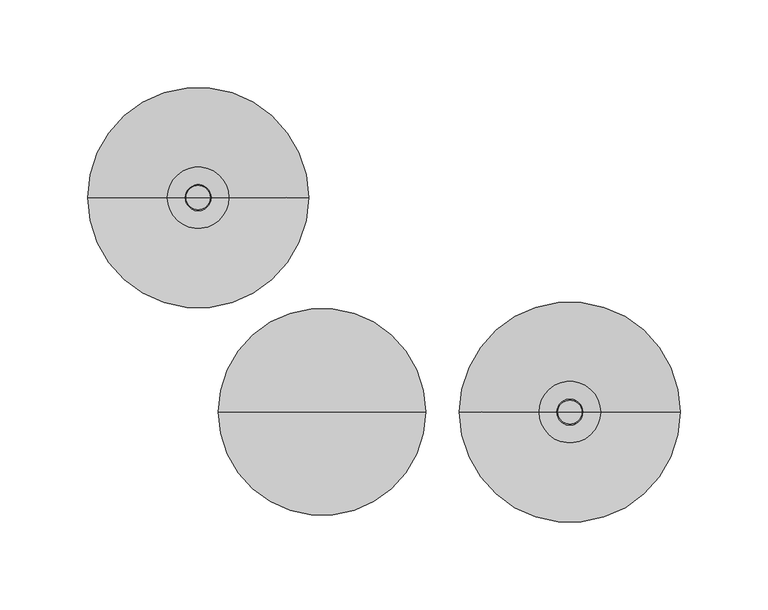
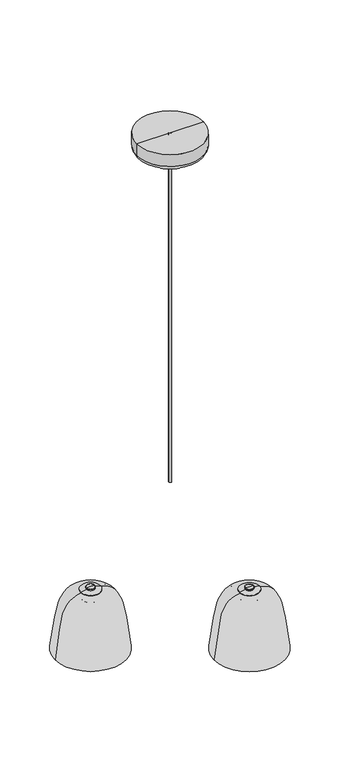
"""IFC4 building model written with IfcOpenShell, lengths in millimetres: light fixture geometry, Nuura - Asteea 3 - Ceiling Based : Nuura - Asteea 3 - Ceiling Based."""

from ifc_helpers import new_model, si_unit, point, frame, origin, origin_2d, place, context, project, spatial, polyline, circle_curve, ellipse_curve, trimmed, segment, composite_curve, outline, extrude, source, transform, mapped, element, save
from ifc_brep_helpers import plane_surface, cylinder_surface, revolved_surface, spline_curve, advanced_brep


def light_fixture_d8af2c10(model_context):
    return source(origin(), model_context, "Body", "SolidModel", [
        advanced_brep(
        [(147.921863, 0.0, 1537.8837022), (134.2810866, 0.0, 1537.8837022), (141.1014748, 0.0, 1537.8837022), (148.4506227, 0.0, 1537.3549425), (133.7523269, 0.0, 1537.3549425), (148.4506227, 0.0, 1535.2858596), (133.7523269, 0.0, 1535.2858596), (158.5840186, 0.0, 1533.3635281), (123.618931, 0.0, 1533.3635281), (158.313257, 0.0, 1532.3812096), (123.8896926, 0.0, 1532.3812096), (141.1014748, 0.0, 1532.3812096)],
        [
            (0, 1, circle_curve(frame((141.1014748, 0.0, 1537.8837022), z_axis=(0.0, 0.0, 1.0), x_axis=(-1.0, 0.0, 0.0)), 6.8203882)),
            (1, 2),
            (2, 0),
            (1, 0, circle_curve(frame((141.1014748, 0.0, 1537.8837022), z_axis=(0.0, 0.0, 1.0), x_axis=(-1.0, 0.0, 0.0)), 6.8203882)),
            (3, 4, circle_curve(frame((141.1014748, 0.0, 1537.3549425), z_axis=(0.0, 0.0, 1.0), x_axis=(-1.0, 0.0, 0.0)), 7.3491479)),
            (4, 1, circle_curve(frame((134.2810866, 0.0, 1537.3549425), z_axis=(0.0, 1.0, 0.0), x_axis=(1.0, 0.0, 0.0)), 0.5287596)),
            (0, 3, circle_curve(frame((147.921863, 0.0, 1537.3549425), z_axis=(0.0, 1.0, 0.0), x_axis=(-1.0, 0.0, 0.0)), 0.5287596)),
            (4, 3, circle_curve(frame((141.1014748, 0.0, 1537.3549425), z_axis=(0.0, 0.0, 1.0), x_axis=(-1.0, 0.0, 0.0)), 7.3491479)),
            (5, 6, circle_curve(frame((141.1014748, 0.0, 1535.2858596), z_axis=(0.0, 0.0, 1.0), x_axis=(-1.0, 0.0, 0.0)), 7.3491479)),
            (6, 4),
            (3, 5),
            (6, 5, circle_curve(frame((141.1014748, 0.0, 1535.2858596), z_axis=(0.0, 0.0, 1.0), x_axis=(-1.0, 0.0, 0.0)), 7.3491479)),
            (7, 8, circle_curve(frame((141.1014748, 0.0, 1533.3635281), z_axis=(0.0, 0.0, 1.0), x_axis=(-1.0, 0.0, 0.0)), 17.4825438)),
            (8, 6, circle_curve(frame((140.4555856, 0.0, 1472.2804356), z_axis=(0.0, 1.0, 0.0), x_axis=(1.0, 0.0, 0.0)), 63.3610063)),
            (5, 7, circle_curve(frame((141.747364, 0.0, 1472.2804356), z_axis=(0.0, 1.0, 0.0), x_axis=(-1.0, 0.0, 0.0)), 63.3610063)),
            (8, 7, circle_curve(frame((141.1014748, 0.0, 1533.3635281), z_axis=(0.0, 0.0, 1.0), x_axis=(-1.0, 0.0, 0.0)), 17.4825438)),
            (9, 10, circle_curve(frame((141.1014748, 0.0, 1532.3812096), z_axis=(0.0, 0.0, 1.0), x_axis=(-1.0, 0.0, 0.0)), 17.2117822)),
            (10, 8),
            (7, 9),
            (10, 9, circle_curve(frame((141.1014748, 0.0, 1532.3812096), z_axis=(0.0, 0.0, 1.0), x_axis=(-1.0, 0.0, 0.0)), 17.2117822)),
            (11, 10),
            (9, 11),
        ],
        [
            plane_surface(frame((141.1014748, 0.0, 1537.8837022), z_axis=(0.0, 0.0, 1.0), x_axis=(-1.0, 0.0, 0.0))),
            revolved_surface(trimmed(ellipse_curve(frame((134.2810866, 0.0, 1537.3549425), z_axis=(0.0, -1.0, 0.0), x_axis=(1.0, 0.0, 0.0)), 0.5287596, 0.5287596), [point((134.2810866, 0.0, 1537.8837022))], [point((133.7523269, 0.0, 1537.3549425))], True, "CARTESIAN"), (141.1014748, 0.0, 1753.1670854), (0.0, 0.0, -1.0)),
            cylinder_surface(frame((141.1014748, 0.0, 1753.1670854), z_axis=(0.0, 0.0, -1.0), x_axis=(-1.0, 0.0, 0.0)), 7.3491479),
            revolved_surface(trimmed(ellipse_curve(frame((140.4555856, 0.0, 1472.2804356), z_axis=(0.0, -1.0, 0.0), x_axis=(1.0, 0.0, 0.0)), 63.3610063, 63.3610063), [point((133.7523269, 0.0, 1535.2858596))], [point((123.618931, 0.0, 1533.3635281))], True, "CARTESIAN"), (141.1014748, 0.0, 1753.1670854), (0.0, 0.0, -1.0)),
            revolved_surface(polyline([(123.618931, 0.0, 1533.3635281), (123.8896926, 0.0, 1532.3812096)]), (141.1014748, 0.0, 1753.1670854), (0.0, 0.0, -1.0)),
            plane_surface(frame((141.1014748, 0.0, 1532.3812096), z_axis=(0.0, 0.0, -1.0), x_axis=(-1.0, 0.0, 0.0))),
        ],
        [
            (0, [[1, 2, 3]]),
            (0, [[4, -3, -2]]),
            (1, [[5, 6, -1, 7]]),
            (1, [[8, -7, -4, -6]]),
            (2, [[9, 10, -5, 11]]),
            (2, [[12, -11, -8, -10]]),
            (3, [[13, 14, -9, 15]]),
            (3, [[16, -15, -12, -14]]),
            (4, [[17, 18, -13, 19]]),
            (4, [[20, -19, -16, -18]]),
            (5, [[21, -17, 22]]),
            (5, [[-22, -20, -21]]),
        ],
    ),
        advanced_brep(
        [(158.6014748, 0.0, 1524.8401724), (123.6014748, 0.0, 1524.8401724), (123.6014748, 0.0, 1527.3401724), (158.6014748, 0.0, 1527.3401724), (147.6014748, 0.0, 1513.8401724), (134.6014748, 0.0, 1513.8401724), (145.1014747, 0.0, 1513.8401724), (137.1014749, 0.0, 1513.8401724), (145.1014747, 0.0, 1503.7870848), (137.1014749, 0.0, 1503.7870848), (141.1014748, 0.0, 1503.7870848), (141.1014748, 0.0, 1527.3401724)],
        [
            (0, 1, circle_curve(frame((141.1014748, 0.0, 1524.8401724), z_axis=(0.0, 0.0, 1.0), x_axis=(-1.0, 0.0, 0.0)), 17.5)),
            (1, 2),
            (2, 3, circle_curve(frame((141.1014748, 0.0, 1527.3401724), z_axis=(0.0, 0.0, -1.0), x_axis=(-1.0, 0.0, 0.0)), 17.5)),
            (3, 0),
            (1, 0, circle_curve(frame((141.1014748, 0.0, 1524.8401724), z_axis=(0.0, 0.0, 1.0), x_axis=(-1.0, 0.0, 0.0)), 17.5)),
            (3, 2, circle_curve(frame((141.1014748, 0.0, 1527.3401724), z_axis=(0.0, 0.0, -1.0), x_axis=(-1.0, 0.0, 0.0)), 17.5)),
            (4, 5, circle_curve(frame((141.1014748, 0.0, 1513.8401724), z_axis=(0.0, 0.0, 1.0), x_axis=(-1.0, 0.0, 0.0)), 6.5)),
            (5, 1, circle_curve(frame((134.6014748, 0.0, 1524.8401724), z_axis=(0.0, 1.0, 0.0), x_axis=(1.0, 0.0, 0.0)), 11.0)),
            (0, 4, circle_curve(frame((147.6014748, 0.0, 1524.8401724), z_axis=(0.0, 1.0, 0.0), x_axis=(-1.0, 0.0, 0.0)), 11.0)),
            (5, 4, circle_curve(frame((141.1014748, 0.0, 1513.8401724), z_axis=(0.0, 0.0, 1.0), x_axis=(-1.0, 0.0, 0.0)), 6.5)),
            (6, 7, circle_curve(frame((141.1014748, 0.0, 1513.8401724), z_axis=(0.0, 0.0, 1.0), x_axis=(-1.0, 0.0, 0.0)), 3.9999999)),
            (7, 5),
            (4, 6),
            (7, 6, circle_curve(frame((141.1014748, 0.0, 1513.8401724), z_axis=(0.0, 0.0, 1.0), x_axis=(-1.0, 0.0, 0.0)), 3.9999999)),
            (8, 9, circle_curve(frame((141.1014748, 0.0, 1503.7870848), z_axis=(0.0, 0.0, 1.0), x_axis=(-1.0, 0.0, 0.0)), 3.9999999)),
            (9, 7),
            (6, 8),
            (9, 8, circle_curve(frame((141.1014748, 0.0, 1503.7870848), z_axis=(0.0, 0.0, 1.0), x_axis=(-1.0, 0.0, 0.0)), 3.9999999)),
            (10, 9),
            (8, 10),
            (2, 11),
            (11, 3),
        ],
        [
            cylinder_surface(frame((141.1014748, 0.0, 1753.1670854), z_axis=(0.0, 0.0, -1.0), x_axis=(-1.0, 0.0, 0.0)), 17.5),
            revolved_surface(trimmed(ellipse_curve(frame((134.6014748, 0.0, 1524.8401724), z_axis=(0.0, -1.0, 0.0), x_axis=(1.0, 0.0, 0.0)), 11.0, 11.0), [point((123.6014748, 0.0, 1524.8401724))], [point((134.6014748, 0.0, 1513.8401724))], True, "CARTESIAN"), (141.1014748, 0.0, 1753.1670854), (0.0, 0.0, -1.0)),
            plane_surface(frame((141.1014748, 0.0, 1513.8401724), z_axis=(0.0, 0.0, -1.0), x_axis=(-1.0, 0.0, 0.0))),
            cylinder_surface(frame((141.1014748, 0.0, 1753.1670854), z_axis=(0.0, 0.0, -1.0), x_axis=(-1.0, 0.0, 0.0)), 3.9999999),
            plane_surface(frame((141.1014748, 0.0, 1503.7870848), z_axis=(0.0, 0.0, -1.0), x_axis=(-1.0, 0.0, 0.0))),
            plane_surface(frame((141.1014748, 0.0, 1527.3401724), z_axis=(0.0, 0.0, 1.0), x_axis=(-1.0, 0.0, 0.0))),
        ],
        [
            (0, [[1, 2, 3, 4]]),
            (0, [[5, -4, 6, -2]]),
            (1, [[7, 8, -1, 9]]),
            (1, [[10, -9, -5, -8]]),
            (2, [[11, 12, -7, 13]]),
            (2, [[14, -13, -10, -12]]),
            (3, [[15, 16, -11, 17]]),
            (3, [[18, -17, -14, -16]]),
            (4, [[19, -15, 20]]),
            (4, [[-20, -18, -19]]),
            (5, [[-3, 21, 22]]),
            (5, [[-6, -22, -21]]),
        ],
    ),
        advanced_brep(
        [(143.9665686, 0.0, 1433.2544453), (138.236381, 0.0, 1433.2544453), (141.1014748, 0.0, 1433.2544453), (145.9514747, 0.0, 1432.2870848), (136.2514749, 0.0, 1432.2870848), (145.9514747, 0.0, 1427.2870848), (136.2514749, 0.0, 1427.2870848), (145.9514747, 0.0, 1417.2870848), (136.2514749, 0.0, 1417.2870848), (163.6014747, 0.0, 1417.2870848), (118.6014749, 0.0, 1417.2870848), (163.6014747, 0.0, 1414.1760242), (118.6014749, 0.0, 1414.1760242), (163.2555686, 0.0, 1412.348619), (118.947381, 0.0, 1412.348619), (141.1014748, 0.0, 1397.2466541)],
        [
            (0, 1, circle_curve(frame((141.1014748, 0.0, 1433.2544453), z_axis=(0.0, 0.0, 1.0), x_axis=(-1.0, 0.0, 0.0)), 2.8650938)),
            (1, 2),
            (2, 0),
            (1, 0, circle_curve(frame((141.1014748, 0.0, 1433.2544453), z_axis=(0.0, 0.0, 1.0), x_axis=(-1.0, 0.0, 0.0)), 2.8650938)),
            (3, 4, circle_curve(frame((141.1014748, 0.0, 1432.2870848), z_axis=(0.0, 0.0, 1.0), x_axis=(-1.0, 0.0, 0.0)), 4.8499999)),
            (4, 1),
            (0, 3),
            (4, 3, circle_curve(frame((141.1014748, 0.0, 1432.2870848), z_axis=(0.0, 0.0, 1.0), x_axis=(-1.0, 0.0, 0.0)), 4.8499999)),
            (5, 6, circle_curve(frame((141.1014748, 0.0, 1427.2870848), z_axis=(0.0, 0.0, 1.0), x_axis=(-1.0, 0.0, 0.0)), 4.8499999)),
            (6, 4),
            (3, 5),
            (6, 5, circle_curve(frame((141.1014748, 0.0, 1427.2870848), z_axis=(0.0, 0.0, 1.0), x_axis=(-1.0, 0.0, 0.0)), 4.8499999)),
            (7, 8, circle_curve(frame((141.1014748, 0.0, 1417.2870848), z_axis=(0.0, 0.0, 1.0), x_axis=(-1.0, 0.0, 0.0)), 4.8499999)),
            (8, 6),
            (5, 7),
            (8, 7, circle_curve(frame((141.1014748, 0.0, 1417.2870848), z_axis=(0.0, 0.0, 1.0), x_axis=(-1.0, 0.0, 0.0)), 4.8499999)),
            (9, 10, circle_curve(frame((141.1014748, 0.0, 1417.2870848), z_axis=(0.0, 0.0, 1.0), x_axis=(-1.0, 0.0, 0.0)), 22.4999999)),
            (10, 8),
            (7, 9),
            (10, 9, circle_curve(frame((141.1014748, 0.0, 1417.2870848), z_axis=(0.0, 0.0, 1.0), x_axis=(-1.0, 0.0, 0.0)), 22.4999999)),
            (11, 12, circle_curve(frame((141.1014748, 0.0, 1414.1760242), z_axis=(0.0, 0.0, 1.0), x_axis=(-1.0, 0.0, 0.0)), 22.4999999)),
            (12, 10),
            (9, 11),
            (12, 11, circle_curve(frame((141.1014748, 0.0, 1414.1760242), z_axis=(0.0, 0.0, 1.0), x_axis=(-1.0, 0.0, 0.0)), 22.4999999)),
            (13, 14, circle_curve(frame((141.1014748, 0.0, 1412.348619), z_axis=(0.0, 0.0, 1.0), x_axis=(-1.0, 0.0, 0.0)), 22.1540938)),
            (14, 12, circle_curve(frame((123.6014749, 0.0, 1414.1760242), z_axis=(0.0, 1.0, 0.0), x_axis=(1.0, 0.0, 0.0)), 5.0)),
            (11, 13, circle_curve(frame((158.6014747, 0.0, 1414.1760242), z_axis=(0.0, 1.0, 0.0), x_axis=(-1.0, 0.0, 0.0)), 5.0)),
            (14, 13, circle_curve(frame((141.1014748, 0.0, 1412.348619), z_axis=(0.0, 0.0, 1.0), x_axis=(-1.0, 0.0, 0.0)), 22.1540938)),
            (15, 14, circle_curve(frame((141.1014748, 0.0, 1421.0473061), z_axis=(0.0, 1.0, 0.0), x_axis=(1.0, 0.0, 0.0)), 23.8006519)),
            (13, 15, circle_curve(frame((141.1014748, 0.0, 1421.0473061), z_axis=(0.0, 1.0, 0.0), x_axis=(-1.0, 0.0, 0.0)), 23.8006519)),
        ],
        [
            plane_surface(frame((141.1014748, 0.0, 1433.2544453), z_axis=(0.0, 0.0, 1.0), x_axis=(-1.0, 0.0, 0.0))),
            revolved_surface(polyline([(138.236381, 0.0, 1433.2544453), (136.2514749, 0.0, 1432.2870848)]), (141.1014748, 0.0, 1753.1670854), (0.0, 0.0, -1.0)),
            cylinder_surface(frame((141.1014748, 0.0, 1753.1670854), z_axis=(0.0, 0.0, -1.0), x_axis=(-1.0, 0.0, 0.0)), 4.8499999),
            plane_surface(frame((141.1014748, 0.0, 1417.2870848), z_axis=(0.0, 0.0, 1.0), x_axis=(-1.0, 0.0, 0.0))),
            cylinder_surface(frame((141.1014748, 0.0, 1753.1670854), z_axis=(0.0, 0.0, -1.0), x_axis=(-1.0, 0.0, 0.0)), 22.4999999),
            revolved_surface(trimmed(ellipse_curve(frame((123.6014749, 0.0, 1414.1760242), z_axis=(0.0, -1.0, 0.0), x_axis=(1.0, 0.0, 0.0)), 5.0, 5.0), [point((118.6014749, 0.0, 1414.1760242))], [point((118.947381, 0.0, 1412.348619))], True, "CARTESIAN"), (141.1014748, 0.0, 1753.1670854), (0.0, 0.0, -1.0)),
            revolved_surface(trimmed(ellipse_curve(frame((141.1014748, 0.0, 1421.0473061), z_axis=(0.0, -1.0, 0.0), x_axis=(1.0, 0.0, 0.0)), 23.8006519, 23.8006519), [point((118.9473809, 0.0, 1412.348619))], [point((141.1014748, 0.0, 1397.2466541))], True, "CARTESIAN"), (141.1014748, 0.0, 1753.1670854), (0.0, 0.0, -1.0)),
        ],
        [
            (0, [[1, 2, 3]]),
            (0, [[4, -3, -2]]),
            (1, [[5, 6, -1, 7]]),
            (1, [[8, -7, -4, -6]]),
            (2, [[9, 10, -5, 11]]),
            (2, [[12, -11, -8, -10]]),
            (2, [[13, 14, -9, 15]]),
            (2, [[16, -15, -12, -14]]),
            (3, [[17, 18, -13, 19]]),
            (3, [[20, -19, -16, -18]]),
            (4, [[21, 22, -17, 23]]),
            (4, [[24, -23, -20, -22]]),
            (5, [[25, 26, -21, 27]]),
            (5, [[28, -27, -24, -26]]),
            (6, [[29, -25, 30]]),
            (6, [[-30, -28, -29]]),
        ],
    ),
        advanced_brep(
        [(201.4108943, 0.0, 1422.4313271), (80.7920553, 0.0, 1422.4313271), (78.2668171, 0.0, 1422.4313271), (203.9361325, 0.0, 1422.4313271), (141.1014748, 0.0, 1532.3812097), (141.1014748, 0.0, 1529.8812097)],
        [
            (0, 1, circle_curve(frame((141.1014748, 0.0, 1422.4313271), z_axis=(0.0, 0.0, 1.0), x_axis=(-1.0, 0.0, 0.0)), 60.3094195)),
            (1, 2),
            (2, 3, circle_curve(frame((141.1014748, 0.0, 1422.4313271), z_axis=(0.0, 0.0, -1.0), x_axis=(-1.0, 0.0, 0.0)), 62.8346577)),
            (3, 0),
            (1, 0, circle_curve(frame((141.1014748, 0.0, 1422.4313271), z_axis=(0.0, 0.0, 1.0), x_axis=(-1.0, 0.0, 0.0)), 60.3094195)),
            (3, 2, circle_curve(frame((141.1014748, 0.0, 1422.4313271), z_axis=(0.0, 0.0, -1.0), x_axis=(-1.0, 0.0, 0.0)), 62.8346577)),
            (2, 4, spline_curve(3, [(78.2668171, 0.0, 1422.4313271), (88.235815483, 0.0, 1492.412983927), (88.039458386, 0.0, 1506.814934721), (105.094205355, 0.0, 1526.79735799), (116.125011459, 0.0, 1533.690170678), (141.1014748, 0.0, 1532.3812097)], [4, 2, 4], [0.0, 0.13955105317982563, 0.22914869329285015])),
            (4, 3, spline_curve(3, [(141.1014748, 0.0, 1532.3812097), (166.077938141, 0.0, 1533.690170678), (177.108744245, 0.0, 1526.79735799), (194.163491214, 0.0, 1506.814934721), (193.967134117, 0.0, 1492.412983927), (203.9361325, 0.0, 1422.4313271)], [4, 2, 4], [0.0, 0.08959764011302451, 0.22914869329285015])),
            (5, 1, spline_curve(3, [(141.1014748, 0.0, 1529.8812097), (116.790382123, 0.0, 1530.967018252), (106.109599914, 0.0, 1524.177618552), (89.666131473, 0.0, 1504.607185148), (89.965450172, 0.0, 1490.596051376), (80.7920553, 0.0, 1422.4313271)], [4, 2, 4], [0.0, 0.08959764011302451, 0.22914869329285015])),
            (0, 5, spline_curve(3, [(201.4108943, 0.0, 1422.4313271), (192.237499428, 0.0, 1490.596051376), (192.536818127, 0.0, 1504.607185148), (176.093349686, 0.0, 1524.177618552), (165.412567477, 0.0, 1530.967018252), (141.1014748, 0.0, 1529.8812097)], [4, 2, 4], [0.0, 0.13955105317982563, 0.22914869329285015])),
        ],
        [
            plane_surface(frame((141.1014748, 0.0, 1422.4313271), z_axis=(0.0, 0.0, -1.0), x_axis=(-1.0, 0.0, 0.0))),
            revolved_surface(spline_curve(3, [(141.1014748, 0.0, 1532.3812097), (116.125011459, 0.0, 1533.690170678), (105.094205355, 0.0, 1526.79735799), (88.039458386, 0.0, 1506.814934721), (88.235815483, 0.0, 1492.412983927), (78.2668171, 0.0, 1422.4313271)], [4, 2, 4], [0.0, 0.08959764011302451, 0.22914869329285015]), (141.1014748, 0.0, 1690.5245239), (0.0, 0.0, -1.0)),
            revolved_surface(spline_curve(3, [(80.7920553, 0.0, 1422.4313271), (89.965450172, 0.0, 1490.596051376), (89.666131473, 0.0, 1504.607185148), (106.109599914, 0.0, 1524.177618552), (116.790382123, 0.0, 1530.967018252), (141.1014748, 0.0, 1529.8812097)], [4, 2, 4], [0.0, 0.13955105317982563, 0.22914869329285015]), (141.1014748, 0.0, 1690.5245239), (0.0, 0.0, -1.0)),
        ],
        [
            (0, [[1, 2, 3, 4]]),
            (0, [[5, -4, 6, -2]]),
            (1, [[-3, 7, 8]]),
            (1, [[-6, -8, -7]]),
            (2, [[9, -1, 10]]),
            (2, [[-10, -5, -9]]),
        ],
    ),
        advanced_brep(
        [(146.9967781, 0.0, 1417.2870867), (135.2061715, 0.0, 1417.2870867), (135.2061715, 0.0, 1513.8401743), (146.9967781, 0.0, 1513.8401743), (141.1014748, 0.0, 1417.2870867), (141.1014748, 0.0, 1513.8401743)],
        [
            (0, 1, circle_curve(frame((141.1014748, 0.0, 1417.2870867), z_axis=(0.0, 0.0, 1.0), x_axis=(-1.0, 0.0, 0.0)), 5.8953033)),
            (1, 2),
            (2, 3, circle_curve(frame((141.1014748, 0.0, 1513.8401743), z_axis=(0.0, 0.0, -1.0), x_axis=(-1.0, 0.0, 0.0)), 5.8953033)),
            (3, 0),
            (1, 0, circle_curve(frame((141.1014748, 0.0, 1417.2870867), z_axis=(0.0, 0.0, 1.0), x_axis=(-1.0, 0.0, 0.0)), 5.8953033)),
            (3, 2, circle_curve(frame((141.1014748, 0.0, 1513.8401743), z_axis=(0.0, 0.0, -1.0), x_axis=(-1.0, 0.0, 0.0)), 5.8953033)),
            (4, 1),
            (0, 4),
            (2, 5),
            (5, 3),
        ],
        [
            cylinder_surface(frame((141.1014748, 0.0, 1531.280333), z_axis=(0.0, 0.0, -1.0), x_axis=(-1.0, 0.0, 0.0)), 5.8953033),
            plane_surface(frame((141.1014748, 0.0, 1417.2870867), z_axis=(0.0, 0.0, -1.0), x_axis=(-1.0, 0.0, 0.0))),
            plane_surface(frame((141.1014748, 0.0, 1513.8401743), z_axis=(0.0, 0.0, 1.0), x_axis=(-1.0, 0.0, 0.0))),
        ],
        [
            (0, [[1, 2, 3, 4]]),
            (0, [[5, -4, 6, -2]]),
            (1, [[7, -1, 8]]),
            (1, [[-8, -5, -7]]),
            (2, [[-3, 9, 10]]),
            (2, [[-6, -10, -9]]),
        ],
    ),
        advanced_brep(
        [(143.9665686, 0.0, 1433.2544471), (138.236381, 0.0, 1433.2544471), (138.236381, 0.0, 1503.7870867), (143.9665686, 0.0, 1503.7870867), (141.1014748, 0.0, 1433.2544471), (141.1014748, 0.0, 1503.7870867)],
        [
            (0, 1, circle_curve(frame((141.1014748, 0.0, 1433.2544471), z_axis=(0.0, 0.0, 1.0), x_axis=(-1.0, 0.0, 0.0)), 2.8650938)),
            (1, 2),
            (2, 3, circle_curve(frame((141.1014748, 0.0, 1503.7870867), z_axis=(0.0, 0.0, -1.0), x_axis=(-1.0, 0.0, 0.0)), 2.8650938)),
            (3, 0),
            (1, 0, circle_curve(frame((141.1014748, 0.0, 1433.2544471), z_axis=(0.0, 0.0, 1.0), x_axis=(-1.0, 0.0, 0.0)), 2.8650938)),
            (3, 2, circle_curve(frame((141.1014748, 0.0, 1503.7870867), z_axis=(0.0, 0.0, -1.0), x_axis=(-1.0, 0.0, 0.0)), 2.8650938)),
            (4, 1),
            (0, 4),
            (2, 5),
            (5, 3),
        ],
        [
            cylinder_surface(frame((141.1014748, 0.0, 1531.280333), z_axis=(0.0, 0.0, -1.0), x_axis=(-1.0, 0.0, 0.0)), 2.8650938),
            plane_surface(frame((141.1014748, 0.0, 1433.2544471), z_axis=(0.0, 0.0, -1.0), x_axis=(-1.0, 0.0, 0.0))),
            plane_surface(frame((141.1014748, 0.0, 1503.7870867), z_axis=(0.0, 0.0, 1.0), x_axis=(-1.0, 0.0, 0.0))),
        ],
        [
            (0, [[1, 2, 3, 4]]),
            (0, [[5, -4, 6, -2]]),
            (1, [[7, -1, 8]]),
            (1, [[-8, -5, -7]]),
            (2, [[-3, 9, 10]]),
            (2, [[-6, -10, -9]]),
        ],
    ),
        advanced_brep(
        [(-63.7303492, 122.1974617, 1538.1737001), (-77.3711256, 122.1974617, 1538.1737001), (-70.5507374, 122.1974617, 1538.1737001), (-63.2015895, 122.1974617, 1537.6449405), (-77.8998853, 122.1974617, 1537.6449405), (-63.2015895, 122.1974617, 1535.5758575), (-77.8998853, 122.1974617, 1535.5758575), (-53.0681936, 122.1974617, 1533.6535261), (-88.0332812, 122.1974617, 1533.6535261), (-53.3389552, 122.1974617, 1532.6712076), (-87.7625196, 122.1974617, 1532.6712076), (-70.5507374, 122.1974617, 1532.6712076)],
        [
            (0, 1, circle_curve(frame((-70.5507374, 122.1974617, 1538.1737001), z_axis=(0.0, 0.0, 1.0), x_axis=(-1.0, 0.0, 0.0)), 6.8203882)),
            (1, 2),
            (2, 0),
            (1, 0, circle_curve(frame((-70.5507374, 122.1974617, 1538.1737001), z_axis=(0.0, 0.0, 1.0), x_axis=(-1.0, 0.0, 0.0)), 6.8203882)),
            (3, 4, circle_curve(frame((-70.5507374, 122.1974617, 1537.6449405), z_axis=(0.0, 0.0, 1.0), x_axis=(-1.0, 0.0, 0.0)), 7.3491479)),
            (4, 1, circle_curve(frame((-77.3711256, 122.1974617, 1537.6449405), z_axis=(0.0, 1.0, 0.0), x_axis=(1.0, 0.0, 0.0)), 0.5287596)),
            (0, 3, circle_curve(frame((-63.7303492, 122.1974617, 1537.6449405), z_axis=(0.0, 1.0, 0.0), x_axis=(-1.0, 0.0, 0.0)), 0.5287596)),
            (4, 3, circle_curve(frame((-70.5507374, 122.1974617, 1537.6449405), z_axis=(0.0, 0.0, 1.0), x_axis=(-1.0, 0.0, 0.0)), 7.3491479)),
            (5, 6, circle_curve(frame((-70.5507374, 122.1974617, 1535.5758575), z_axis=(0.0, 0.0, 1.0), x_axis=(-1.0, 0.0, 0.0)), 7.3491479)),
            (6, 4),
            (3, 5),
            (6, 5, circle_curve(frame((-70.5507374, 122.1974617, 1535.5758575), z_axis=(0.0, 0.0, 1.0), x_axis=(-1.0, 0.0, 0.0)), 7.3491479)),
            (7, 8, circle_curve(frame((-70.5507374, 122.1974617, 1533.6535261), z_axis=(0.0, 0.0, 1.0), x_axis=(-1.0, 0.0, 0.0)), 17.4825438)),
            (8, 6, circle_curve(frame((-71.1966266, 122.1974617, 1472.5704336), z_axis=(0.0, 1.0, 0.0), x_axis=(1.0, 0.0, 0.0)), 63.3610063)),
            (5, 7, circle_curve(frame((-69.9048482, 122.1974617, 1472.5704336), z_axis=(0.0, 1.0, 0.0), x_axis=(-1.0, 0.0, 0.0)), 63.3610063)),
            (8, 7, circle_curve(frame((-70.5507374, 122.1974617, 1533.6535261), z_axis=(0.0, 0.0, 1.0), x_axis=(-1.0, 0.0, 0.0)), 17.4825438)),
            (9, 10, circle_curve(frame((-70.5507374, 122.1974617, 1532.6712076), z_axis=(0.0, 0.0, 1.0), x_axis=(-1.0, 0.0, 0.0)), 17.2117822)),
            (10, 8),
            (7, 9),
            (10, 9, circle_curve(frame((-70.5507374, 122.1974617, 1532.6712076), z_axis=(0.0, 0.0, 1.0), x_axis=(-1.0, 0.0, 0.0)), 17.2117822)),
            (11, 10),
            (9, 11),
        ],
        [
            plane_surface(frame((-70.5507374, 122.1974617, 1538.1737001), z_axis=(0.0, 0.0, 1.0), x_axis=(-1.0, 0.0, 0.0))),
            revolved_surface(trimmed(ellipse_curve(frame((-77.3711256, 122.1974617, 1537.6449405), z_axis=(0.0, -1.0, 0.0), x_axis=(1.0, 0.0, 0.0)), 0.5287596, 0.5287596), [point((-77.3711256, 122.1974617, 1538.1737001))], [point((-77.8998853, 122.1974617, 1537.6449405))], True, "CARTESIAN"), (-70.5507374, 122.1974617, 1753.4570833), (0.0, 0.0, -1.0)),
            cylinder_surface(frame((-70.5507374, 122.1974617, 1753.4570833), z_axis=(0.0, 0.0, -1.0), x_axis=(-1.0, 0.0, 0.0)), 7.3491479),
            revolved_surface(trimmed(ellipse_curve(frame((-71.1966266, 122.1974617, 1472.5704336), z_axis=(0.0, -1.0, 0.0), x_axis=(1.0, 0.0, 0.0)), 63.3610063, 63.3610063), [point((-77.8998853, 122.1974617, 1535.5758575))], [point((-88.0332812, 122.1974617, 1533.6535261))], True, "CARTESIAN"), (-70.5507374, 122.1974617, 1753.4570833), (0.0, 0.0, -1.0)),
            revolved_surface(polyline([(-88.0332812, 122.1974617, 1533.6535261), (-87.7625196, 122.1974617, 1532.6712076)]), (-70.5507374, 122.1974617, 1753.4570833), (0.0, 0.0, -1.0)),
            plane_surface(frame((-70.5507374, 122.1974617, 1532.6712076), z_axis=(0.0, 0.0, -1.0), x_axis=(-1.0, 0.0, 0.0))),
        ],
        [
            (0, [[1, 2, 3]]),
            (0, [[4, -3, -2]]),
            (1, [[5, 6, -1, 7]]),
            (1, [[8, -7, -4, -6]]),
            (2, [[9, 10, -5, 11]]),
            (2, [[12, -11, -8, -10]]),
            (3, [[13, 14, -9, 15]]),
            (3, [[16, -15, -12, -14]]),
            (4, [[17, 18, -13, 19]]),
            (4, [[20, -19, -16, -18]]),
            (5, [[21, -17, 22]]),
            (5, [[-22, -20, -21]]),
        ],
    ),
        advanced_brep(
        [(-53.0507374, 122.1974617, 1525.1301704), (-88.0507374, 122.1974617, 1525.1301704), (-88.0507374, 122.1974617, 1527.6301704), (-53.0507374, 122.1974617, 1527.6301704), (-64.0507374, 122.1974617, 1514.1301704), (-77.0507374, 122.1974617, 1514.1301704), (-66.5507375, 122.1974617, 1514.1301704), (-74.5507373, 122.1974617, 1514.1301704), (-66.5507375, 122.1974617, 1504.0770827), (-74.5507373, 122.1974617, 1504.0770827), (-70.5507374, 122.1974617, 1504.0770827), (-70.5507374, 122.1974617, 1527.6301704)],
        [
            (0, 1, circle_curve(frame((-70.5507374, 122.1974617, 1525.1301704), z_axis=(0.0, 0.0, 1.0), x_axis=(-1.0, 0.0, 0.0)), 17.5)),
            (1, 2),
            (2, 3, circle_curve(frame((-70.5507374, 122.1974617, 1527.6301704), z_axis=(0.0, 0.0, -1.0), x_axis=(-1.0, 0.0, 0.0)), 17.5)),
            (3, 0),
            (1, 0, circle_curve(frame((-70.5507374, 122.1974617, 1525.1301704), z_axis=(0.0, 0.0, 1.0), x_axis=(-1.0, 0.0, 0.0)), 17.5)),
            (3, 2, circle_curve(frame((-70.5507374, 122.1974617, 1527.6301704), z_axis=(0.0, 0.0, -1.0), x_axis=(-1.0, 0.0, 0.0)), 17.5)),
            (4, 5, circle_curve(frame((-70.5507374, 122.1974617, 1514.1301704), z_axis=(0.0, 0.0, 1.0), x_axis=(-1.0, 0.0, 0.0)), 6.5)),
            (5, 1, circle_curve(frame((-77.0507374, 122.1974617, 1525.1301704), z_axis=(0.0, 1.0, 0.0), x_axis=(1.0, 0.0, 0.0)), 11.0)),
            (0, 4, circle_curve(frame((-64.0507374, 122.1974617, 1525.1301704), z_axis=(0.0, 1.0, 0.0), x_axis=(-1.0, 0.0, 0.0)), 11.0)),
            (5, 4, circle_curve(frame((-70.5507374, 122.1974617, 1514.1301704), z_axis=(0.0, 0.0, 1.0), x_axis=(-1.0, 0.0, 0.0)), 6.5)),
            (6, 7, circle_curve(frame((-70.5507374, 122.1974617, 1514.1301704), z_axis=(0.0, 0.0, 1.0), x_axis=(-1.0, 0.0, 0.0)), 3.9999999)),
            (7, 5),
            (4, 6),
            (7, 6, circle_curve(frame((-70.5507374, 122.1974617, 1514.1301704), z_axis=(0.0, 0.0, 1.0), x_axis=(-1.0, 0.0, 0.0)), 3.9999999)),
            (8, 9, circle_curve(frame((-70.5507374, 122.1974617, 1504.0770827), z_axis=(0.0, 0.0, 1.0), x_axis=(-1.0, 0.0, 0.0)), 3.9999999)),
            (9, 7),
            (6, 8),
            (9, 8, circle_curve(frame((-70.5507374, 122.1974617, 1504.0770827), z_axis=(0.0, 0.0, 1.0), x_axis=(-1.0, 0.0, 0.0)), 3.9999999)),
            (10, 9),
            (8, 10),
            (2, 11),
            (11, 3),
        ],
        [
            cylinder_surface(frame((-70.5507374, 122.1974617, 1753.4570833), z_axis=(0.0, 0.0, -1.0), x_axis=(-1.0, 0.0, 0.0)), 17.5),
            revolved_surface(trimmed(ellipse_curve(frame((-77.0507374, 122.1974617, 1525.1301704), z_axis=(0.0, -1.0, 0.0), x_axis=(1.0, 0.0, 0.0)), 11.0, 11.0), [point((-88.0507374, 122.1974617, 1525.1301704))], [point((-77.0507374, 122.1974617, 1514.1301704))], True, "CARTESIAN"), (-70.5507374, 122.1974617, 1753.4570833), (0.0, 0.0, -1.0)),
            plane_surface(frame((-70.5507374, 122.1974617, 1514.1301704), z_axis=(0.0, 0.0, -1.0), x_axis=(-1.0, 0.0, 0.0))),
            cylinder_surface(frame((-70.5507374, 122.1974617, 1753.4570833), z_axis=(0.0, 0.0, -1.0), x_axis=(-1.0, 0.0, 0.0)), 3.9999999),
            plane_surface(frame((-70.5507374, 122.1974617, 1504.0770827), z_axis=(0.0, 0.0, -1.0), x_axis=(-1.0, 0.0, 0.0))),
            plane_surface(frame((-70.5507374, 122.1974617, 1527.6301704), z_axis=(0.0, 0.0, 1.0), x_axis=(-1.0, 0.0, 0.0))),
        ],
        [
            (0, [[1, 2, 3, 4]]),
            (0, [[5, -4, 6, -2]]),
            (1, [[7, 8, -1, 9]]),
            (1, [[10, -9, -5, -8]]),
            (2, [[11, 12, -7, 13]]),
            (2, [[14, -13, -10, -12]]),
            (3, [[15, 16, -11, 17]]),
            (3, [[18, -17, -14, -16]]),
            (4, [[19, -15, 20]]),
            (4, [[-20, -18, -19]]),
            (5, [[-3, 21, 22]]),
            (5, [[-6, -22, -21]]),
        ],
    ),
        advanced_brep(
        [(-67.6856436, 122.1974617, 1433.5444432), (-73.4158312, 122.1974617, 1433.5444432), (-70.5507374, 122.1974617, 1433.5444432), (-65.7007375, 122.1974617, 1432.5770827), (-75.4007373, 122.1974617, 1432.5770827), (-65.7007375, 122.1974617, 1427.5770827), (-75.4007373, 122.1974617, 1427.5770827), (-65.7007375, 122.1974617, 1417.5770827), (-75.4007373, 122.1974617, 1417.5770827), (-48.0507375, 122.1974617, 1417.5770827), (-93.0507373, 122.1974617, 1417.5770827), (-48.0507375, 122.1974617, 1414.4660221), (-93.0507373, 122.1974617, 1414.4660221), (-48.3966436, 122.1974617, 1412.6386169), (-92.7048312, 122.1974617, 1412.6386169), (-70.5507374, 122.1974617, 1397.536652)],
        [
            (0, 1, circle_curve(frame((-70.5507374, 122.1974617, 1433.5444432), z_axis=(0.0, 0.0, 1.0), x_axis=(-1.0, 0.0, 0.0)), 2.8650938)),
            (1, 2),
            (2, 0),
            (1, 0, circle_curve(frame((-70.5507374, 122.1974617, 1433.5444432), z_axis=(0.0, 0.0, 1.0), x_axis=(-1.0, 0.0, 0.0)), 2.8650938)),
            (3, 4, circle_curve(frame((-70.5507374, 122.1974617, 1432.5770827), z_axis=(0.0, 0.0, 1.0), x_axis=(-1.0, 0.0, 0.0)), 4.8499999)),
            (4, 1),
            (0, 3),
            (4, 3, circle_curve(frame((-70.5507374, 122.1974617, 1432.5770827), z_axis=(0.0, 0.0, 1.0), x_axis=(-1.0, 0.0, 0.0)), 4.8499999)),
            (5, 6, circle_curve(frame((-70.5507374, 122.1974617, 1427.5770827), z_axis=(0.0, 0.0, 1.0), x_axis=(-1.0, 0.0, 0.0)), 4.8499999)),
            (6, 4),
            (3, 5),
            (6, 5, circle_curve(frame((-70.5507374, 122.1974617, 1427.5770827), z_axis=(0.0, 0.0, 1.0), x_axis=(-1.0, 0.0, 0.0)), 4.8499999)),
            (7, 8, circle_curve(frame((-70.5507374, 122.1974617, 1417.5770827), z_axis=(0.0, 0.0, 1.0), x_axis=(-1.0, 0.0, 0.0)), 4.8499999)),
            (8, 6),
            (5, 7),
            (8, 7, circle_curve(frame((-70.5507374, 122.1974617, 1417.5770827), z_axis=(0.0, 0.0, 1.0), x_axis=(-1.0, 0.0, 0.0)), 4.8499999)),
            (9, 10, circle_curve(frame((-70.5507374, 122.1974617, 1417.5770827), z_axis=(0.0, 0.0, 1.0), x_axis=(-1.0, 0.0, 0.0)), 22.4999999)),
            (10, 8),
            (7, 9),
            (10, 9, circle_curve(frame((-70.5507374, 122.1974617, 1417.5770827), z_axis=(0.0, 0.0, 1.0), x_axis=(-1.0, 0.0, 0.0)), 22.4999999)),
            (11, 12, circle_curve(frame((-70.5507374, 122.1974617, 1414.4660221), z_axis=(0.0, 0.0, 1.0), x_axis=(-1.0, 0.0, 0.0)), 22.4999999)),
            (12, 10),
            (9, 11),
            (12, 11, circle_curve(frame((-70.5507374, 122.1974617, 1414.4660221), z_axis=(0.0, 0.0, 1.0), x_axis=(-1.0, 0.0, 0.0)), 22.4999999)),
            (13, 14, circle_curve(frame((-70.5507374, 122.1974617, 1412.6386169), z_axis=(0.0, 0.0, 1.0), x_axis=(-1.0, 0.0, 0.0)), 22.1540938)),
            (14, 12, circle_curve(frame((-88.0507373, 122.1974617, 1414.4660221), z_axis=(0.0, 1.0, 0.0), x_axis=(1.0, 0.0, 0.0)), 5.0)),
            (11, 13, circle_curve(frame((-53.0507375, 122.1974617, 1414.4660221), z_axis=(0.0, 1.0, 0.0), x_axis=(-1.0, 0.0, 0.0)), 5.0)),
            (14, 13, circle_curve(frame((-70.5507374, 122.1974617, 1412.6386169), z_axis=(0.0, 0.0, 1.0), x_axis=(-1.0, 0.0, 0.0)), 22.1540938)),
            (15, 14, circle_curve(frame((-70.5507373, 122.1974617, 1421.337304), z_axis=(0.0, 1.0, 0.0), x_axis=(1.0, 0.0, 0.0)), 23.800652)),
            (13, 15, circle_curve(frame((-70.5507375, 122.1974617, 1421.337304), z_axis=(0.0, 1.0, 0.0), x_axis=(-1.0, 0.0, 0.0)), 23.800652)),
        ],
        [
            plane_surface(frame((-70.5507374, 122.1974617, 1433.5444432), z_axis=(0.0, 0.0, 1.0), x_axis=(-1.0, 0.0, 0.0))),
            revolved_surface(polyline([(-73.4158312, 122.1974617, 1433.5444432), (-75.4007373, 122.1974617, 1432.5770827)]), (-70.5507374, 122.1974617, 1753.4570833), (0.0, 0.0, -1.0)),
            cylinder_surface(frame((-70.5507374, 122.1974617, 1753.4570833), z_axis=(0.0, 0.0, -1.0), x_axis=(-1.0, 0.0, 0.0)), 4.8499999),
            plane_surface(frame((-70.5507374, 122.1974617, 1417.5770827), z_axis=(0.0, 0.0, 1.0), x_axis=(-1.0, 0.0, 0.0))),
            cylinder_surface(frame((-70.5507374, 122.1974617, 1753.4570833), z_axis=(0.0, 0.0, -1.0), x_axis=(-1.0, 0.0, 0.0)), 22.4999999),
            revolved_surface(trimmed(ellipse_curve(frame((-88.0507373, 122.1974617, 1414.4660221), z_axis=(0.0, -1.0, 0.0), x_axis=(1.0, 0.0, 0.0)), 5.0, 5.0), [point((-93.0507373, 122.1974617, 1414.4660221))], [point((-92.7048312, 122.1974617, 1412.6386169))], True, "CARTESIAN"), (-70.5507374, 122.1974617, 1753.4570833), (0.0, 0.0, -1.0)),
            revolved_surface(trimmed(ellipse_curve(frame((-70.5507373, 122.1974617, 1421.337304), z_axis=(0.0, -1.0, 0.0), x_axis=(1.0, 0.0, 0.0)), 23.800652, 23.800652), [point((-92.7048312, 122.1974617, 1412.6386169))], [point((-70.5507374, 122.1974617, 1397.536652))], True, "CARTESIAN"), (-70.5507374, 122.1974617, 1753.4570833), (0.0, 0.0, -1.0)),
        ],
        [
            (0, [[1, 2, 3]]),
            (0, [[4, -3, -2]]),
            (1, [[5, 6, -1, 7]]),
            (1, [[8, -7, -4, -6]]),
            (2, [[9, 10, -5, 11]]),
            (2, [[12, -11, -8, -10]]),
            (2, [[13, 14, -9, 15]]),
            (2, [[16, -15, -12, -14]]),
            (3, [[17, 18, -13, 19]]),
            (3, [[20, -19, -16, -18]]),
            (4, [[21, 22, -17, 23]]),
            (4, [[24, -23, -20, -22]]),
            (5, [[25, 26, -21, 27]]),
            (5, [[28, -27, -24, -26]]),
            (6, [[29, -25, 30]]),
            (6, [[-30, -28, -29]]),
        ],
    ),
        advanced_brep(
        [(-10.2413179, 122.1974617, 1422.721325), (-130.8601569, 122.1974617, 1422.721325), (-133.3853951, 122.1974617, 1422.721325), (-7.7160797, 122.1974617, 1422.721325), (-70.5507374, 122.1974617, 1532.6712076), (-70.5507374, 122.1974617, 1530.1712076)],
        [
            (0, 1, circle_curve(frame((-70.5507374, 122.1974617, 1422.721325), z_axis=(0.0, 0.0, 1.0), x_axis=(-1.0, 0.0, 0.0)), 60.3094195)),
            (1, 2),
            (2, 3, circle_curve(frame((-70.5507374, 122.1974617, 1422.721325), z_axis=(0.0, 0.0, -1.0), x_axis=(-1.0, 0.0, 0.0)), 62.8346577)),
            (3, 0),
            (1, 0, circle_curve(frame((-70.5507374, 122.1974617, 1422.721325), z_axis=(0.0, 0.0, 1.0), x_axis=(-1.0, 0.0, 0.0)), 60.3094195)),
            (3, 2, circle_curve(frame((-70.5507374, 122.1974617, 1422.721325), z_axis=(0.0, 0.0, -1.0), x_axis=(-1.0, 0.0, 0.0)), 62.8346577)),
            (2, 4, spline_curve(3, [(-133.3853951, 122.1974617, 1422.721325), (-123.416396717, 122.1974617, 1492.702981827), (-123.612753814, 122.1974617, 1507.104932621), (-106.558006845, 122.1974617, 1527.08735589), (-95.527200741, 122.1974617, 1533.980168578), (-70.5507374, 122.1974617, 1532.6712076)], [4, 2, 4], [0.0, 0.13955105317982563, 0.22914869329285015])),
            (4, 3, spline_curve(3, [(-70.5507374, 122.1974617, 1532.6712076), (-45.574274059, 122.1974617, 1533.980168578), (-34.543467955, 122.1974617, 1527.08735589), (-17.488720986, 122.1974617, 1507.104932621), (-17.685078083, 122.1974617, 1492.702981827), (-7.7160797, 122.1974617, 1422.721325)], [4, 2, 4], [0.0, 0.08959764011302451, 0.22914869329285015])),
            (5, 1, spline_curve(3, [(-70.5507374, 122.1974617, 1530.1712076), (-94.861830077, 122.1974617, 1531.257016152), (-105.542612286, 122.1974617, 1524.467616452), (-121.986080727, 122.1974617, 1504.897183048), (-121.686762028, 122.1974617, 1490.886049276), (-130.8601569, 122.1974617, 1422.721325)], [4, 2, 4], [0.0, 0.08959764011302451, 0.22914869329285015])),
            (0, 5, spline_curve(3, [(-10.2413179, 122.1974617, 1422.721325), (-19.414712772, 122.1974617, 1490.886049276), (-19.115394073, 122.1974617, 1504.897183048), (-35.558862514, 122.1974617, 1524.467616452), (-46.239644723, 122.1974617, 1531.257016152), (-70.5507374, 122.1974617, 1530.1712076)], [4, 2, 4], [0.0, 0.13955105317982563, 0.22914869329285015])),
        ],
        [
            plane_surface(frame((-70.5507374, 122.1974617, 1422.721325), z_axis=(0.0, 0.0, -1.0), x_axis=(-1.0, 0.0, 0.0))),
            revolved_surface(spline_curve(3, [(-70.5507374, 122.1974617, 1532.6712076), (-95.527200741, 122.1974617, 1533.980168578), (-106.558006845, 122.1974617, 1527.08735589), (-123.612753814, 122.1974617, 1507.104932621), (-123.416396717, 122.1974617, 1492.702981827), (-133.3853951, 122.1974617, 1422.721325)], [4, 2, 4], [0.0, 0.08959764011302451, 0.22914869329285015]), (-70.5507374, 122.1974617, 1690.8145218), (0.0, 0.0, -1.0)),
            revolved_surface(spline_curve(3, [(-130.8601569, 122.1974617, 1422.721325), (-121.686762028, 122.1974617, 1490.886049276), (-121.986080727, 122.1974617, 1504.897183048), (-105.542612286, 122.1974617, 1524.467616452), (-94.861830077, 122.1974617, 1531.257016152), (-70.5507374, 122.1974617, 1530.1712076)], [4, 2, 4], [0.0, 0.13955105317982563, 0.22914869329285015]), (-70.5507374, 122.1974617, 1690.8145218), (0.0, 0.0, -1.0)),
        ],
        [
            (0, [[1, 2, 3, 4]]),
            (0, [[5, -4, 6, -2]]),
            (1, [[-3, 7, 8]]),
            (1, [[-6, -8, -7]]),
            (2, [[9, -1, 10]]),
            (2, [[-10, -5, -9]]),
        ],
    ),
        advanced_brep(
        [(-64.6554341, 122.1974617, 1417.5770846), (-76.4460407, 122.1974617, 1417.5770846), (-76.4460407, 122.1974617, 1514.1301722), (-64.6554341, 122.1974617, 1514.1301722), (-70.5507374, 122.1974617, 1417.5770846), (-70.5507374, 122.1974617, 1514.1301722)],
        [
            (0, 1, circle_curve(frame((-70.5507374, 122.1974617, 1417.5770846), z_axis=(0.0, 0.0, 1.0), x_axis=(-1.0, 0.0, 0.0)), 5.8953033)),
            (1, 2),
            (2, 3, circle_curve(frame((-70.5507374, 122.1974617, 1514.1301722), z_axis=(0.0, 0.0, -1.0), x_axis=(-1.0, 0.0, 0.0)), 5.8953033)),
            (3, 0),
            (1, 0, circle_curve(frame((-70.5507374, 122.1974617, 1417.5770846), z_axis=(0.0, 0.0, 1.0), x_axis=(-1.0, 0.0, 0.0)), 5.8953033)),
            (3, 2, circle_curve(frame((-70.5507374, 122.1974617, 1514.1301722), z_axis=(0.0, 0.0, -1.0), x_axis=(-1.0, 0.0, 0.0)), 5.8953033)),
            (4, 1),
            (0, 4),
            (2, 5),
            (5, 3),
        ],
        [
            cylinder_surface(frame((-70.5507374, 122.1974617, 1531.5703309), z_axis=(0.0, 0.0, -1.0), x_axis=(-1.0, 0.0, 0.0)), 5.8953033),
            plane_surface(frame((-70.5507374, 122.1974617, 1417.5770846), z_axis=(0.0, 0.0, -1.0), x_axis=(-1.0, 0.0, 0.0))),
            plane_surface(frame((-70.5507374, 122.1974617, 1514.1301722), z_axis=(0.0, 0.0, 1.0), x_axis=(-1.0, 0.0, 0.0))),
        ],
        [
            (0, [[1, 2, 3, 4]]),
            (0, [[5, -4, 6, -2]]),
            (1, [[7, -1, 8]]),
            (1, [[-8, -5, -7]]),
            (2, [[-3, 9, 10]]),
            (2, [[-6, -10, -9]]),
        ],
    ),
        advanced_brep(
        [(7.0, 0.0, 2408.4), (-7.0, 0.0, 2408.4), (-51.0, 0.0, 2408.4), (51.0, 0.0, 2408.4), (7.0, 0.0, 2401.4), (-7.0, 0.0, 2401.4), (6.0, 0.0, 2400.4), (-6.0, 0.0, 2400.4), (0.0, 0.0, 2400.4), (59.0, 0.0, 2438.4), (-59.0, 0.0, 2438.4), (0.0, 0.0, 2438.4), (59.0, 0.0, 2416.4), (-59.0, 0.0, 2416.4)],
        [
            (0, 1, circle_curve(frame((0.0, 0.0, 2408.4), z_axis=(0.0, 0.0, 1.0), x_axis=(-1.0, 0.0, 0.0)), 7.0)),
            (1, 2),
            (2, 3, circle_curve(frame((0.0, 0.0, 2408.4), z_axis=(0.0, 0.0, -1.0), x_axis=(-1.0, 0.0, 0.0)), 51.0)),
            (3, 0),
            (1, 0, circle_curve(frame((0.0, 0.0, 2408.4), z_axis=(0.0, 0.0, 1.0), x_axis=(-1.0, 0.0, 0.0)), 7.0)),
            (3, 2, circle_curve(frame((0.0, 0.0, 2408.4), z_axis=(0.0, 0.0, -1.0), x_axis=(-1.0, 0.0, 0.0)), 51.0)),
            (4, 5, circle_curve(frame((0.0, 0.0, 2401.4), z_axis=(0.0, 0.0, 1.0), x_axis=(-1.0, 0.0, 0.0)), 7.0)),
            (5, 1),
            (0, 4),
            (5, 4, circle_curve(frame((0.0, 0.0, 2401.4), z_axis=(0.0, 0.0, 1.0), x_axis=(-1.0, 0.0, 0.0)), 7.0)),
            (6, 7, circle_curve(frame((0.0, 0.0, 2400.4), z_axis=(0.0, 0.0, 1.0), x_axis=(-1.0, 0.0, 0.0)), 6.0)),
            (7, 5, circle_curve(frame((-6.0, 0.0, 2401.4), z_axis=(0.0, 1.0, 0.0), x_axis=(1.0, 0.0, 0.0)), 1.0)),
            (4, 6, circle_curve(frame((6.0, 0.0, 2401.4), z_axis=(0.0, 1.0, 0.0), x_axis=(-1.0, 0.0, 0.0)), 1.0)),
            (7, 6, circle_curve(frame((0.0, 0.0, 2400.4), z_axis=(0.0, 0.0, 1.0), x_axis=(-1.0, 0.0, 0.0)), 6.0)),
            (8, 7),
            (6, 8),
            (9, 10, circle_curve(frame((0.0, 0.0, 2438.4), z_axis=(0.0, 0.0, 1.0), x_axis=(-1.0, 0.0, 0.0)), 59.0)),
            (10, 11),
            (11, 9),
            (10, 9, circle_curve(frame((0.0, 0.0, 2438.4), z_axis=(0.0, 0.0, 1.0), x_axis=(-1.0, 0.0, 0.0)), 59.0)),
            (12, 13, circle_curve(frame((0.0, 0.0, 2416.4), z_axis=(0.0, 0.0, 1.0), x_axis=(-1.0, 0.0, 0.0)), 59.0)),
            (13, 10),
            (9, 12),
            (13, 12, circle_curve(frame((0.0, 0.0, 2416.4), z_axis=(0.0, 0.0, 1.0), x_axis=(-1.0, 0.0, 0.0)), 59.0)),
            (2, 13, circle_curve(frame((-51.0, 0.0, 2416.4), z_axis=(0.0, 1.0, 0.0), x_axis=(1.0, 0.0, 0.0)), 8.0)),
            (12, 3, circle_curve(frame((51.0, 0.0, 2416.4), z_axis=(0.0, 1.0, 0.0), x_axis=(-1.0, 0.0, 0.0)), 8.0)),
        ],
        [
            plane_surface(frame((0.0, 0.0, 2408.4), z_axis=(0.0, 0.0, -1.0), x_axis=(-1.0, 0.0, 0.0))),
            cylinder_surface(frame((0.0, 0.0, 2449.5281977), z_axis=(0.0, 0.0, -1.0), x_axis=(-1.0, 0.0, 0.0)), 7.0),
            revolved_surface(trimmed(ellipse_curve(frame((-6.0, 0.0, 2401.4), z_axis=(0.0, -1.0, 0.0), x_axis=(1.0, 0.0, 0.0)), 1.0, 1.0), [point((-7.0, 0.0, 2401.4))], [point((-6.0, 0.0, 2400.4))], True, "CARTESIAN"), (0.0, 0.0, 2449.5281977), (0.0, 0.0, -1.0)),
            plane_surface(frame((0.0, 0.0, 2400.4), z_axis=(0.0, 0.0, -1.0), x_axis=(-1.0, 0.0, 0.0))),
            plane_surface(frame((0.0, 0.0, 2438.4), z_axis=(0.0, 0.0, 1.0), x_axis=(-1.0, 0.0, 0.0))),
            cylinder_surface(frame((0.0, 0.0, 2449.5281977), z_axis=(0.0, 0.0, -1.0), x_axis=(-1.0, 0.0, 0.0)), 59.0),
            revolved_surface(trimmed(ellipse_curve(frame((-51.0, 0.0, 2416.4), z_axis=(0.0, -1.0, 0.0), x_axis=(1.0, 0.0, 0.0)), 8.0, 8.0), [point((-59.0, 0.0, 2416.4))], [point((-51.0, 0.0, 2408.4))], True, "CARTESIAN"), (0.0, 0.0, 2449.5281977), (0.0, 0.0, -1.0)),
        ],
        [
            (0, [[1, 2, 3, 4]]),
            (0, [[5, -4, 6, -2]]),
            (1, [[7, 8, -1, 9]]),
            (1, [[10, -9, -5, -8]]),
            (2, [[11, 12, -7, 13]]),
            (2, [[14, -13, -10, -12]]),
            (3, [[15, -11, 16]]),
            (3, [[-16, -14, -15]]),
            (4, [[17, 18, 19]]),
            (4, [[20, -19, -18]]),
            (5, [[21, 22, -17, 23]]),
            (5, [[24, -23, -20, -22]]),
            (6, [[-3, 25, -21, 26]]),
            (6, [[-6, -26, -24, -25]]),
        ],
    ),
        advanced_brep(
        [(-67.6856436, 122.1974617, 1433.5444451), (-73.4158312, 122.1974617, 1433.5444451), (-73.4158312, 122.1974617, 1504.0770846), (-67.6856436, 122.1974617, 1504.0770846), (-70.5507374, 122.1974617, 1433.5444451), (-70.5507374, 122.1974617, 1504.0770846)],
        [
            (0, 1, circle_curve(frame((-70.5507374, 122.1974617, 1433.5444451), z_axis=(0.0, 0.0, 1.0), x_axis=(-1.0, 0.0, 0.0)), 2.8650938)),
            (1, 2),
            (2, 3, circle_curve(frame((-70.5507374, 122.1974617, 1504.0770846), z_axis=(0.0, 0.0, -1.0), x_axis=(-1.0, 0.0, 0.0)), 2.8650938)),
            (3, 0),
            (1, 0, circle_curve(frame((-70.5507374, 122.1974617, 1433.5444451), z_axis=(0.0, 0.0, 1.0), x_axis=(-1.0, 0.0, 0.0)), 2.8650938)),
            (3, 2, circle_curve(frame((-70.5507374, 122.1974617, 1504.0770846), z_axis=(0.0, 0.0, -1.0), x_axis=(-1.0, 0.0, 0.0)), 2.8650938)),
            (4, 1),
            (0, 4),
            (2, 5),
            (5, 3),
        ],
        [
            cylinder_surface(frame((-70.5507374, 122.1974617, 1531.5703309), z_axis=(0.0, 0.0, -1.0), x_axis=(-1.0, 0.0, 0.0)), 2.8650938),
            plane_surface(frame((-70.5507374, 122.1974617, 1433.5444451), z_axis=(0.0, 0.0, -1.0), x_axis=(-1.0, 0.0, 0.0))),
            plane_surface(frame((-70.5507374, 122.1974617, 1504.0770846), z_axis=(0.0, 0.0, 1.0), x_axis=(-1.0, 0.0, 0.0))),
        ],
        [
            (0, [[1, 2, 3, 4]]),
            (0, [[5, -4, 6, -2]]),
            (1, [[7, -1, 8]]),
            (1, [[-8, -5, -7]]),
            (2, [[-3, 9, 10]]),
            (2, [[-6, -10, -9]]),
        ],
    ),
        extrude(outline(composite_curve([segment(trimmed(circle_curve(origin_2d(), 2.5158725), [point((-2.5158725, 0.0))], [point((2.5158725, 0.0))], False, "CARTESIAN"), True, "CONTINUOUS"), segment(trimmed(circle_curve(origin_2d(), 2.5158725), [point((2.5158725, 0.0))], [point((-2.5158725, 0.0))], False, "CARTESIAN"), True, "CONTINUOUS")], self_intersect=False)), frame((0.0, 0.0, 1784.4), z_axis=(0.0, 0.0, 1.0), x_axis=(1.0, 0.0, 0.0)), (0.0, 0.0, 1.0), 654.0),
    ])


if __name__ == "__main__":
    model = new_model("IFC4")
    model_context = context("Model", 3, world=origin())
    ifc_project = project(units=[si_unit("LENGTHUNIT", "METRE", prefix="MILLI")], contexts=[model_context])
    site = spatial("IfcSite", under=ifc_project)
    building = spatial("IfcBuilding", under=site)
    placement = place(None, origin())
    light_fixture_shape = light_fixture_d8af2c10(model_context)
    element("IfcLightFixture", 1, ObjectType="Nuura - Asteea 3 - Ceiling Based : Nuura - Asteea 3 - Ceiling Based", at=placement, inside=building, context=model_context, shape_type="MappedRepresentation", body=[
        mapped(light_fixture_shape, transform((0.0, 0.0, 0.0), x_axis=(1.0, 0.0, 0.0), y_axis=(0.0, 1.0, 0.0), z_axis=(0.0, 0.0, 1.0))),
    ])
    save(model, "model.ifc")
